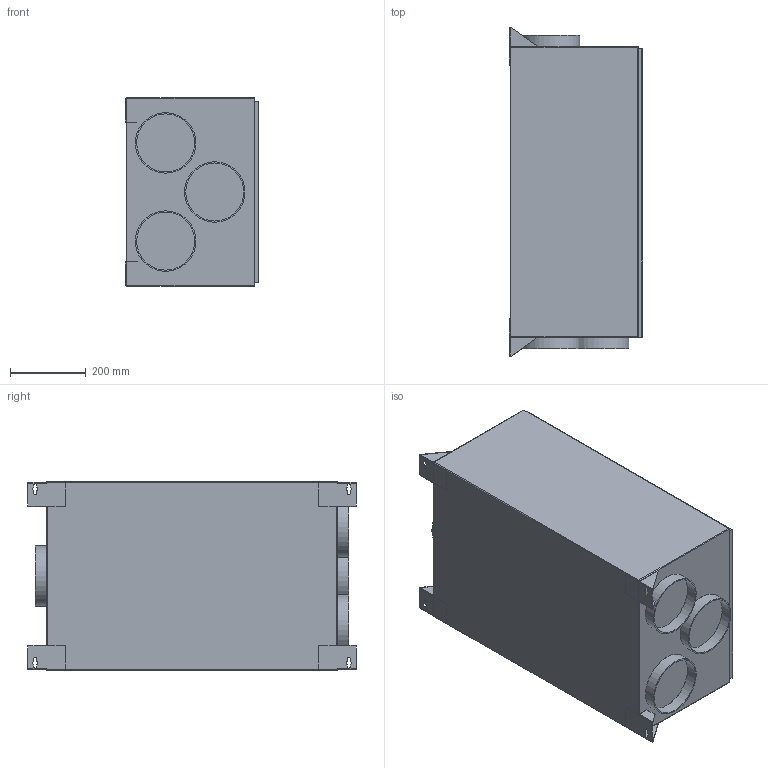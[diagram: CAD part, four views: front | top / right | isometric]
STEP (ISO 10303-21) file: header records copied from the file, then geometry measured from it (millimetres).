
FILE_DESCRIPTION(/* description */ ('Diverter'),/* implementation_level */ '2;1');
FILE_NAME(/* name */ 'Q:\I_Simples\Library\Inventor\Diverter\10395T\395_T.stp',/* time_stamp */ '2024-02-27T16:31:07+01:00',/* author */ ('Ru'),/* organization */ (''),/* preprocessor_version */ 'ST-DEVELOPER v18.1',/* originating_system */ 'Autodesk Inventor 2022',/* authorisation */ '');
FILE_SCHEMA (('AUTOMOTIVE_DESIGN { 1 0 10303 214 3 1 1 }'));
Length unit declared in the file: millimetre
Products named in the file (4): 1.0395.T.0F; Gehäuse; G_Wandhalter; G_Wandhalter01
Assembly tree (5 placements, depth 2):
  1.0395.T.0F
    Gehäuse
    G_Wandhalter  x2
    G_Wandhalter01  x2
Bounding box: 352.5 x 870 x 500 mm (x, y, z)
Volume: 135177479.3 mm3; surface area: 1850167.1 mm2
Topology: 5 solids, 5 shells, 169 faces, 418 edges, 268 vertices
Faces by surface type: plane 113, cylinder 52, sphere 4
Full cylindrical faces by diameter (mm): 153.6 x4, 160 x4
Entity records: 3242 total; most frequent: DIRECTION 552, CARTESIAN_POINT 528, ORIENTED_EDGE 504, EDGE_CURVE 252, LINE 184, VECTOR 184, AXIS2_PLACEMENT_3D 184, VERTEX_POINT 160
